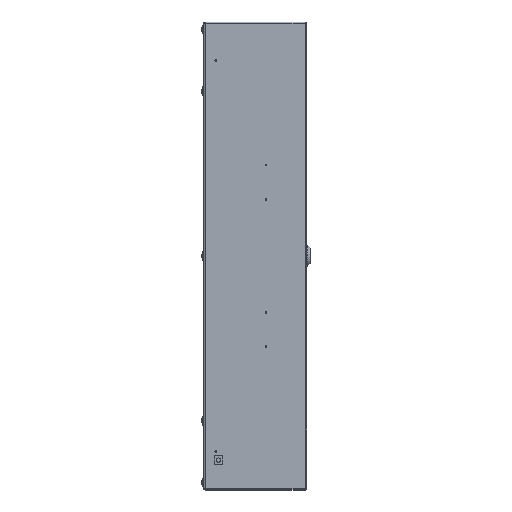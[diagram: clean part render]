
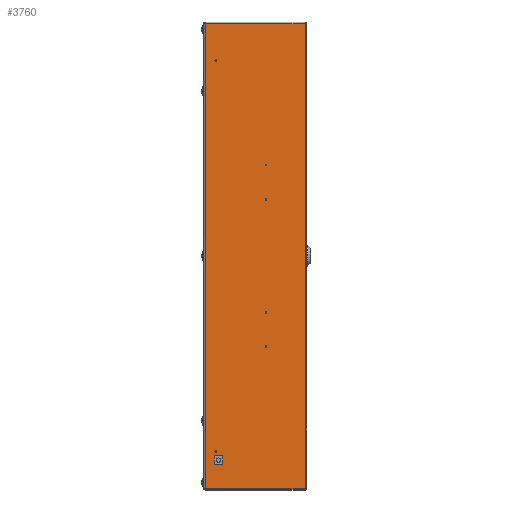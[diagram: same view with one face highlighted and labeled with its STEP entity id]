
A CAD part, top view. The second image highlights one B-rep face of the part: STEP entity #3760.
In plain terms, the highlighted planar face has unit normal (0, 0, 1).
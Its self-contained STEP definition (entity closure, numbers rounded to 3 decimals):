
#211 = DIRECTION ( 'NONE',  ( 1., 0., 0. ) ) ;
#314 = CARTESIAN_POINT ( 'NONE',  ( 16.1, 39., 310.3 ) ) ;
#857 = DIRECTION ( 'NONE',  ( -1., 0., 0. ) ) ;
#1720 = ORIENTED_EDGE ( 'NONE', *, *, #5953, .T. ) ;
#1761 = DIRECTION ( 'NONE',  ( 1., 0., 0. ) ) ;
#1772 = DIRECTION ( 'NONE',  ( 0., 1., 0. ) ) ;
#2102 = VECTOR ( 'NONE', #14772, 1000. ) ;
#2557 = DIRECTION ( 'NONE',  ( 0., -1., 0. ) ) ;
#2953 = FACE_OUTER_BOUND ( 'NONE', #3646, .T. ) ;
#3083 = CARTESIAN_POINT ( 'NONE',  ( 121.2, 0.7, 310.3 ) ) ;
#3212 = CARTESIAN_POINT ( 'NONE',  ( 16.1, 29., 310.3 ) ) ;
#3309 = CARTESIAN_POINT ( 'NONE',  ( 6., 537.8, 310.3 ) ) ;
#3646 = EDGE_LOOP ( 'NONE', ( #3724, #4964, #1720, #4977 ) ) ;
#3724 = ORIENTED_EDGE ( 'NONE', *, *, #13960, .T. ) ;
#3760 = ADVANCED_FACE ( 'NONE', ( #2953, #13900 ), #6292, .T. ) ;
#3776 = LINE ( 'NONE', #9769, #9796 ) ;
#3944 = LINE ( 'NONE', #9918, #7910 ) ;
#3985 = LINE ( 'NONE', #7627, #2102 ) ;
#4015 = ORIENTED_EDGE ( 'NONE', *, *, #5021, .T. ) ;
#4229 = EDGE_LOOP ( 'NONE', ( #14957, #12600, #4015, #14630 ) ) ;
#4462 = VERTEX_POINT ( 'NONE', #10601 ) ;
#4964 = ORIENTED_EDGE ( 'NONE', *, *, #9574, .T. ) ;
#4977 = ORIENTED_EDGE ( 'NONE', *, *, #10085, .F. ) ;
#5021 = EDGE_CURVE ( 'NONE', #8488, #4462, #13239, .T. ) ;
#5135 = DIRECTION ( 'NONE',  ( 0., 0., 1. ) ) ;
#5136 = DIRECTION ( 'NONE',  ( 1., 0., 0. ) ) ;
#5284 = CARTESIAN_POINT ( 'NONE',  ( 16.1, 39., 310.3 ) ) ;
#5356 = CARTESIAN_POINT ( 'NONE',  ( 6., 537.8, 310.3 ) ) ;
#5722 = CARTESIAN_POINT ( 'NONE',  ( 26.1, 29., 310.3 ) ) ;
#5953 = EDGE_CURVE ( 'NONE', #8065, #9212, #7711, .T. ) ;
#6013 = VERTEX_POINT ( 'NONE', #15453 ) ;
#6292 = PLANE ( 'NONE',  #7510 ) ;
#6407 = VECTOR ( 'NONE', #15356, 1000. ) ;
#7510 = AXIS2_PLACEMENT_3D ( 'NONE', #10068, #5135, #211 ) ;
#7512 = LINE ( 'NONE', #5356, #11856 ) ;
#7627 = CARTESIAN_POINT ( 'NONE',  ( 6., 0.7, 310.3 ) ) ;
#7711 = LINE ( 'NONE', #3083, #6407 ) ;
#7910 = VECTOR ( 'NONE', #5136, 1000. ) ;
#8041 = CARTESIAN_POINT ( 'NONE',  ( 26.1, 39., 310.3 ) ) ;
#8065 = VERTEX_POINT ( 'NONE', #14239 ) ;
#8256 = EDGE_CURVE ( 'NONE', #4462, #10459, #15512, .T. ) ;
#8385 = VERTEX_POINT ( 'NONE', #8041 ) ;
#8488 = VERTEX_POINT ( 'NONE', #5722 ) ;
#9212 = VERTEX_POINT ( 'NONE', #12344 ) ;
#9574 = EDGE_CURVE ( 'NONE', #6013, #8065, #3985, .T. ) ;
#9740 = CARTESIAN_POINT ( 'NONE',  ( 26.1, 29., 310.3 ) ) ;
#9769 = CARTESIAN_POINT ( 'NONE',  ( 6., 537.8, 310.3 ) ) ;
#9796 = VECTOR ( 'NONE', #2557, 1000. ) ;
#9918 = CARTESIAN_POINT ( 'NONE',  ( 26.1, 39., 310.3 ) ) ;
#10057 = EDGE_CURVE ( 'NONE', #10459, #8385, #3944, .T. ) ;
#10068 = CARTESIAN_POINT ( 'NONE',  ( 6., 537.8, 310.3 ) ) ;
#10085 = EDGE_CURVE ( 'NONE', #10538, #9212, #7512, .T. ) ;
#10459 = VERTEX_POINT ( 'NONE', #5284 ) ;
#10538 = VERTEX_POINT ( 'NONE', #3309 ) ;
#10601 = CARTESIAN_POINT ( 'NONE',  ( 16.1, 29., 310.3 ) ) ;
#10935 = DIRECTION ( 'NONE',  ( 0., -1., 0. ) ) ;
#11856 = VECTOR ( 'NONE', #1761, 1000. ) ;
#12344 = CARTESIAN_POINT ( 'NONE',  ( 121.2, 537.8, 310.3 ) ) ;
#12476 = VECTOR ( 'NONE', #1772, 1000. ) ;
#12600 = ORIENTED_EDGE ( 'NONE', *, *, #15347, .T. ) ;
#12941 = LINE ( 'NONE', #9740, #14672 ) ;
#13051 = VECTOR ( 'NONE', #857, 1000. ) ;
#13239 = LINE ( 'NONE', #3212, #13051 ) ;
#13900 = FACE_BOUND ( 'NONE', #4229, .T. ) ;
#13960 = EDGE_CURVE ( 'NONE', #10538, #6013, #3776, .T. ) ;
#14239 = CARTESIAN_POINT ( 'NONE',  ( 121.2, 0.7, 310.3 ) ) ;
#14630 = ORIENTED_EDGE ( 'NONE', *, *, #8256, .T. ) ;
#14672 = VECTOR ( 'NONE', #10935, 1000. ) ;
#14772 = DIRECTION ( 'NONE',  ( 1., 0., 0. ) ) ;
#14957 = ORIENTED_EDGE ( 'NONE', *, *, #10057, .T. ) ;
#15347 = EDGE_CURVE ( 'NONE', #8385, #8488, #12941, .T. ) ;
#15356 = DIRECTION ( 'NONE',  ( 0., 1., 0. ) ) ;
#15453 = CARTESIAN_POINT ( 'NONE',  ( 6., 0.7, 310.3 ) ) ;
#15512 = LINE ( 'NONE', #314, #12476 ) ;
